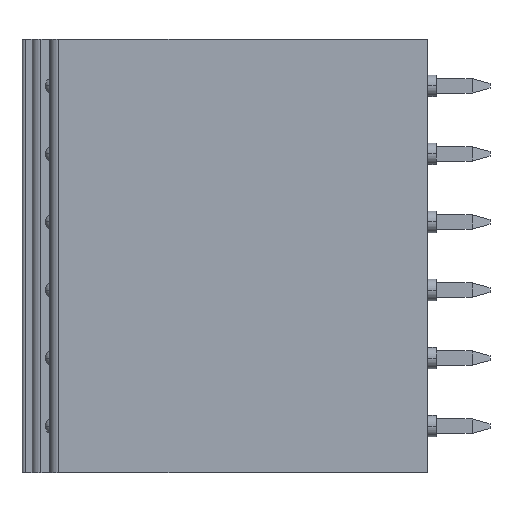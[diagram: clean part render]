
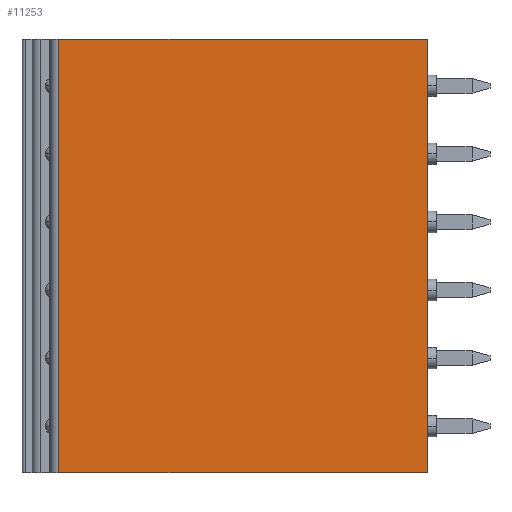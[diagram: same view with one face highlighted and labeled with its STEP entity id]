
A CAD part, left-side view. The second image highlights one B-rep face of the part: STEP entity #11253.
In plain terms, the highlighted planar face has unit normal (-1, 0, 0).
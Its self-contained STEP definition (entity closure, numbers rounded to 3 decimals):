
#1881 = EDGE_CURVE ( 'NONE', #28061, #7011, #23040, .T. ) ;
#6342 = DIRECTION ( 'NONE',  ( -1., 0., 0. ) ) ;
#6666 = LINE ( 'NONE', #35523, #16659 ) ;
#7011 = VERTEX_POINT ( 'NONE', #24357 ) ;
#7448 = CARTESIAN_POINT ( 'NONE',  ( -33.357, 51.205, -15.24 ) ) ;
#8185 = CARTESIAN_POINT ( 'NONE',  ( -33.357, 0., 2.6 ) ) ;
#9280 = EDGE_CURVE ( 'NONE', #9745, #10403, #36113, .T. ) ;
#9745 = VERTEX_POINT ( 'NONE', #19484 ) ;
#10403 = VERTEX_POINT ( 'NONE', #22952 ) ;
#11253 = ADVANCED_FACE ( 'NONE', ( #17823 ), #29007, .T. ) ;
#13106 = DIRECTION ( 'NONE',  ( 0., 0., -1. ) ) ;
#13578 = DIRECTION ( 'NONE',  ( 0., 1., 0. ) ) ;
#16659 = VECTOR ( 'NONE', #30267, 1000. ) ;
#16666 = LINE ( 'NONE', #7448, #33705 ) ;
#17128 = ORIENTED_EDGE ( 'NONE', *, *, #32090, .F. ) ;
#17823 = FACE_OUTER_BOUND ( 'NONE', #30660, .T. ) ;
#17923 = ORIENTED_EDGE ( 'NONE', *, *, #9280, .T. ) ;
#17989 = EDGE_CURVE ( 'NONE', #9745, #28061, #16666, .T. ) ;
#18365 = DIRECTION ( 'NONE',  ( 0., 0., 1. ) ) ;
#19484 = CARTESIAN_POINT ( 'NONE',  ( -33.357, 51.205, 2.6 ) ) ;
#22952 = CARTESIAN_POINT ( 'NONE',  ( -33.357, 71.845, 2.6 ) ) ;
#23040 = LINE ( 'NONE', #24610, #35438 ) ;
#24357 = CARTESIAN_POINT ( 'NONE',  ( -33.357, 71.845, -21.65 ) ) ;
#24610 = CARTESIAN_POINT ( 'NONE',  ( -33.357, 0., -21.65 ) ) ;
#25545 = ORIENTED_EDGE ( 'NONE', *, *, #1881, .F. ) ;
#25549 = ORIENTED_EDGE ( 'NONE', *, *, #17989, .F. ) ;
#27110 = CARTESIAN_POINT ( 'NONE',  ( -33.357, 51.205, -21.65 ) ) ;
#28061 = VERTEX_POINT ( 'NONE', #27110 ) ;
#29007 = PLANE ( 'NONE',  #32129 ) ;
#30267 = DIRECTION ( 'NONE',  ( 0., 0., 1. ) ) ;
#30537 = VECTOR ( 'NONE', #30655, 1000. ) ;
#30655 = DIRECTION ( 'NONE',  ( 0., 1., 0. ) ) ;
#30660 = EDGE_LOOP ( 'NONE', ( #17128, #25545, #25549, #17923 ) ) ;
#31993 = CARTESIAN_POINT ( 'NONE',  ( -33.357, 72.845, -15.24 ) ) ;
#32090 = EDGE_CURVE ( 'NONE', #7011, #10403, #6666, .T. ) ;
#32129 = AXIS2_PLACEMENT_3D ( 'NONE', #31993, #6342, #18365 ) ;
#33705 = VECTOR ( 'NONE', #13106, 1000. ) ;
#35438 = VECTOR ( 'NONE', #13578, 1000. ) ;
#35523 = CARTESIAN_POINT ( 'NONE',  ( -33.357, 71.845, 0. ) ) ;
#36113 = LINE ( 'NONE', #8185, #30537 ) ;
